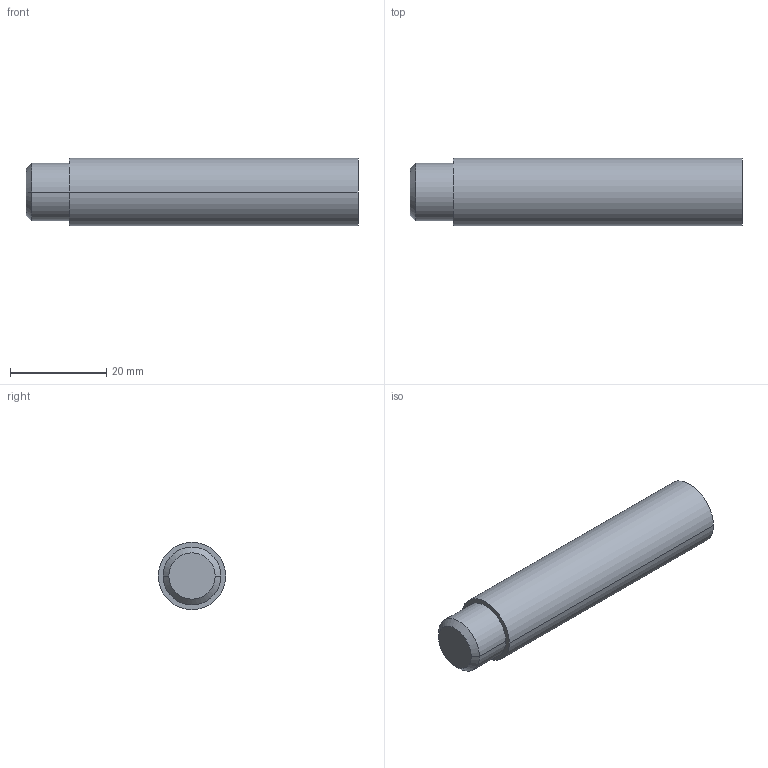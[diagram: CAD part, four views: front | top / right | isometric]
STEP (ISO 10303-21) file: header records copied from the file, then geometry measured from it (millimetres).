
FILE_DESCRIPTION((''),'2;1');
FILE_NAME('505221_500897_ASM','2026-07-20T15:09:19',('LF994'),(''),'CREO PARAMETRIC BY PTC INC, 2024133','CREO PARAMETRIC BY PTC INC, 2024133','');
FILE_SCHEMA(('CONFIG_CONTROL_DESIGN'));
Length unit declared in the file: millimetre
Products named in the file (3): 601161-601161; 601162; 505221_500897_ASM
Assembly tree (2 placements, depth 2):
  505221_500897_ASM
    601161-601161
    601162
Bounding box: 69 x 14 x 14 mm (x, y, z)
Volume: 4831.9 mm3; surface area: 5432.4 mm2
Topology: 2 solids, 2 shells, 18 faces, 34 edges, 20 vertices
Faces by surface type: cone 8, cylinder 6, plane 4
Entity records: 546 total; most frequent: DIRECTION 100, CARTESIAN_POINT 77, ORIENTED_EDGE 68, AXIS2_PLACEMENT_3D 43, EDGE_CURVE 34, VERTEX_POINT 20, EDGE_LOOP 20, CIRCLE 20
